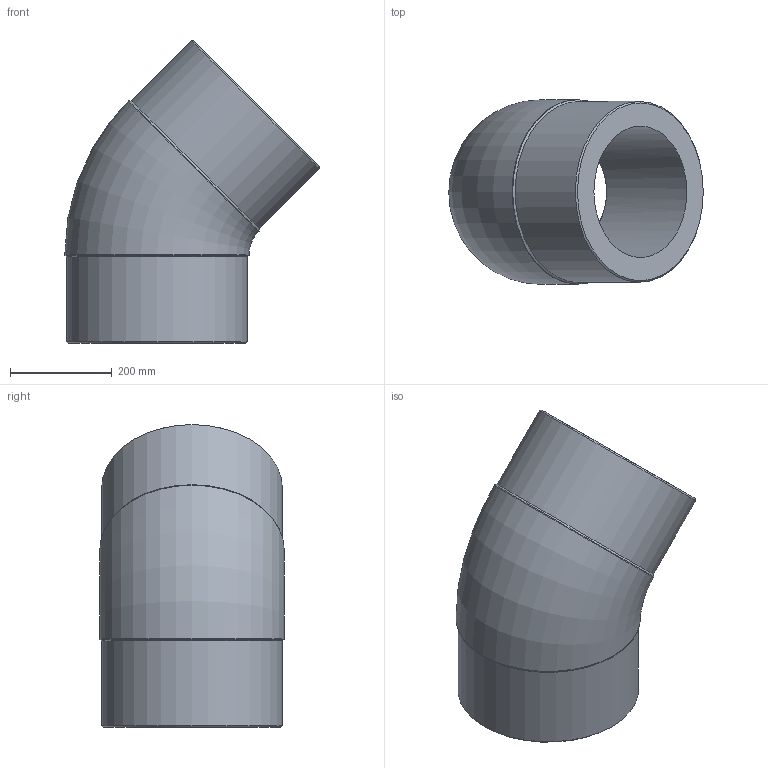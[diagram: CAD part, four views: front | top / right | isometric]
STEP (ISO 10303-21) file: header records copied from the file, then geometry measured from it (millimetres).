
FILE_DESCRIPTION(/* description */ ('Unknown'),/* implementation_level */ '2;1');
FILE_NAME(/* name */ 'G4P355H',/* time_stamp */ '2022-01-21T15:28:05+01:00',/* author */ ('Unknown'),/* organization */ ('Unknown'),/* preprocessor_version */ 'ST-DEVELOPER v18.1',/* originating_system */ 'Solid Edge',/* authorisation */ 'Unknown');
FILE_SCHEMA (('AUTOMOTIVE_DESIGN {1 0 10303 214 3 1 1}'));
Length unit declared in the file: millimetre
Products named in the file (1): G4P355H
Bounding box: 499.55 x 362 x 594.55 mm (x, y, z)
Volume: 26176444.6 mm3; surface area: 1140172.6 mm2
Topology: 1 solids, 1 shells, 14 faces, 34 edges, 22 vertices
Faces by surface type: cylinder 6, cone 4, plane 2, torus 2
Full cylindrical faces by diameter (mm): 258 x2, 355 x2, 362 x2
Entity records: 372 total; most frequent: CARTESIAN_POINT 72, DIRECTION 60, ORIENTED_EDGE 38, AXIS2_PLACEMENT_3D 30, EDGE_LOOP 27, FACE_BOUND 27, EDGE_CURVE 19, VERTEX_POINT 18
